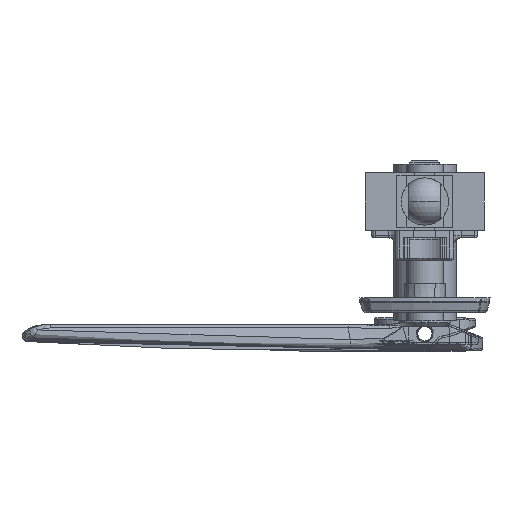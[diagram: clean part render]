
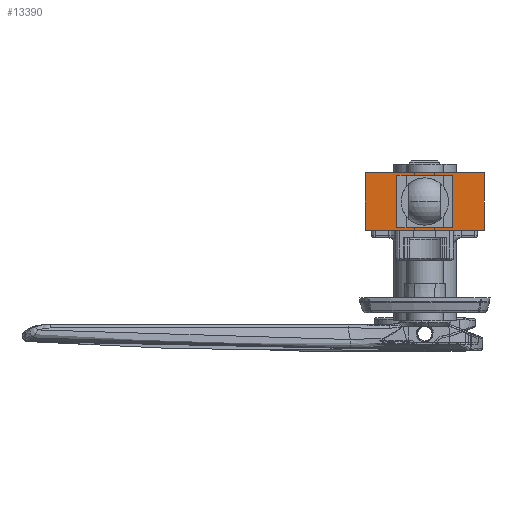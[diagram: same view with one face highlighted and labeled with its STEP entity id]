
A CAD part, front view. The second image highlights one B-rep face of the part: STEP entity #13390.
In plain terms, the highlighted planar face has unit normal (0, -1, 0).
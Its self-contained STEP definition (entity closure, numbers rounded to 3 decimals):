
#125 = EDGE_CURVE ( 'NONE', #18573, #18287, #17843, .T. ) ;
#145 = VECTOR ( 'NONE', #7476, 1000. ) ;
#183 = FACE_OUTER_BOUND ( 'NONE', #26652, .T. ) ;
#830 = DIRECTION ( 'NONE',  ( 0., 0., -1. ) ) ;
#936 = LINE ( 'NONE', #21668, #20748 ) ;
#1486 = CARTESIAN_POINT ( 'NONE',  ( 7., -199.25, 6.25 ) ) ;
#2285 = VERTEX_POINT ( 'NONE', #20092 ) ;
#2489 = EDGE_CURVE ( 'NONE', #22108, #14301, #24694, .T. ) ;
#3043 = CARTESIAN_POINT ( 'NONE',  ( 7., -199.25, 6.25 ) ) ;
#4192 = ORIENTED_EDGE ( 'NONE', *, *, #10127, .F. ) ;
#4942 = FACE_BOUND ( 'NONE', #10849, .T. ) ;
#5118 = ORIENTED_EDGE ( 'NONE', *, *, #125, .F. ) ;
#5929 = LINE ( 'NONE', #19345, #20099 ) ;
#6531 = EDGE_CURVE ( 'NONE', #17180, #18573, #18984, .T. ) ;
#6986 = CARTESIAN_POINT ( 'NONE',  ( -16., -199.25, -7.75 ) ) ;
#7476 = DIRECTION ( 'NONE',  ( -1., 0., 0. ) ) ;
#8187 = VECTOR ( 'NONE', #11356, 1000. ) ;
#10001 = CARTESIAN_POINT ( 'NONE',  ( -7., -199.25, 6.25 ) ) ;
#10127 = EDGE_CURVE ( 'NONE', #19719, #17180, #11461, .T. ) ;
#10849 = EDGE_LOOP ( 'NONE', ( #12821, #5118, #26530, #4192 ) ) ;
#10873 = VECTOR ( 'NONE', #31972, 1000. ) ;
#11356 = DIRECTION ( 'NONE',  ( 0., 0., -1. ) ) ;
#11461 = LINE ( 'NONE', #19101, #10873 ) ;
#12037 = CARTESIAN_POINT ( 'NONE',  ( -16., -199.25, 7.75 ) ) ;
#12122 = EDGE_CURVE ( 'NONE', #27397, #2285, #14939, .T. ) ;
#12463 = EDGE_CURVE ( 'NONE', #18287, #19719, #29178, .T. ) ;
#12608 = EDGE_CURVE ( 'NONE', #14301, #2285, #5929, .T. ) ;
#12821 = ORIENTED_EDGE ( 'NONE', *, *, #12463, .F. ) ;
#13390 = ADVANCED_FACE ( 'NONE', ( #4942, #183 ), #28710, .F. ) ;
#13964 = VECTOR ( 'NONE', #23781, 1000. ) ;
#14301 = VERTEX_POINT ( 'NONE', #31872 ) ;
#14939 = LINE ( 'NONE', #6986, #21818 ) ;
#15025 = ORIENTED_EDGE ( 'NONE', *, *, #12122, .T. ) ;
#15130 = DIRECTION ( 'NONE',  ( 0., 1., 0. ) ) ;
#15821 = AXIS2_PLACEMENT_3D ( 'NONE', #18028, #15130, #20240 ) ;
#17180 = VERTEX_POINT ( 'NONE', #26622 ) ;
#17625 = CARTESIAN_POINT ( 'NONE',  ( -7., -199.25, -6.25 ) ) ;
#17843 = LINE ( 'NONE', #20390, #145 ) ;
#18028 = CARTESIAN_POINT ( 'NONE',  ( -16., -199.25, 7.75 ) ) ;
#18287 = VERTEX_POINT ( 'NONE', #10001 ) ;
#18573 = VERTEX_POINT ( 'NONE', #1486 ) ;
#18984 = LINE ( 'NONE', #3043, #13964 ) ;
#19101 = CARTESIAN_POINT ( 'NONE',  ( -7., -199.25, -6.25 ) ) ;
#19111 = DIRECTION ( 'NONE',  ( 0., 0., -1. ) ) ;
#19345 = CARTESIAN_POINT ( 'NONE',  ( 16., -199.25, 7.75 ) ) ;
#19719 = VERTEX_POINT ( 'NONE', #17625 ) ;
#20092 = CARTESIAN_POINT ( 'NONE',  ( 16., -199.25, -7.75 ) ) ;
#20099 = VECTOR ( 'NONE', #830, 1000. ) ;
#20240 = DIRECTION ( 'NONE',  ( 0., 0., 1. ) ) ;
#20390 = CARTESIAN_POINT ( 'NONE',  ( 7., -199.25, 6.25 ) ) ;
#20748 = VECTOR ( 'NONE', #19111, 1000. ) ;
#21231 = CARTESIAN_POINT ( 'NONE',  ( -7., -199.25, -6.25 ) ) ;
#21668 = CARTESIAN_POINT ( 'NONE',  ( -16., -199.25, 7.75 ) ) ;
#21818 = VECTOR ( 'NONE', #22767, 1000. ) ;
#22108 = VERTEX_POINT ( 'NONE', #12037 ) ;
#22758 = ORIENTED_EDGE ( 'NONE', *, *, #2489, .F. ) ;
#22767 = DIRECTION ( 'NONE',  ( 1., 0., 0. ) ) ;
#23781 = DIRECTION ( 'NONE',  ( 0., 0., 1. ) ) ;
#24694 = LINE ( 'NONE', #29598, #32786 ) ;
#25039 = DIRECTION ( 'NONE',  ( 1., 0., 0. ) ) ;
#26530 = ORIENTED_EDGE ( 'NONE', *, *, #6531, .F. ) ;
#26569 = EDGE_CURVE ( 'NONE', #22108, #27397, #936, .T. ) ;
#26622 = CARTESIAN_POINT ( 'NONE',  ( 7., -199.25, -6.25 ) ) ;
#26652 = EDGE_LOOP ( 'NONE', ( #15025, #28935, #22758, #30296 ) ) ;
#27397 = VERTEX_POINT ( 'NONE', #32247 ) ;
#28710 = PLANE ( 'NONE',  #15821 ) ;
#28935 = ORIENTED_EDGE ( 'NONE', *, *, #12608, .F. ) ;
#29178 = LINE ( 'NONE', #21231, #8187 ) ;
#29598 = CARTESIAN_POINT ( 'NONE',  ( -16., -199.25, 7.75 ) ) ;
#30296 = ORIENTED_EDGE ( 'NONE', *, *, #26569, .T. ) ;
#31872 = CARTESIAN_POINT ( 'NONE',  ( 16., -199.25, 7.75 ) ) ;
#31972 = DIRECTION ( 'NONE',  ( 1., 0., 0. ) ) ;
#32247 = CARTESIAN_POINT ( 'NONE',  ( -16., -199.25, -7.75 ) ) ;
#32786 = VECTOR ( 'NONE', #25039, 1000. ) ;
